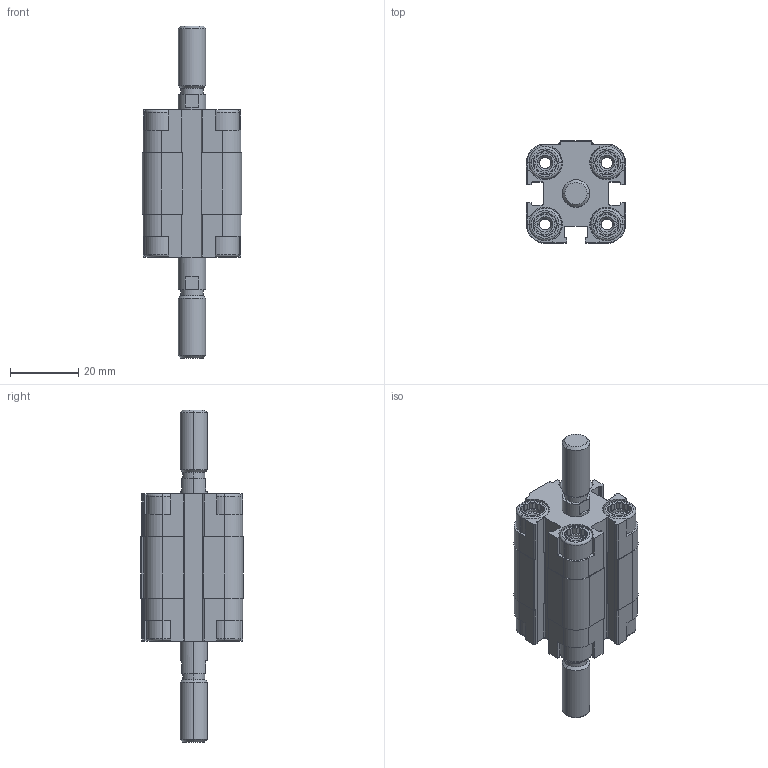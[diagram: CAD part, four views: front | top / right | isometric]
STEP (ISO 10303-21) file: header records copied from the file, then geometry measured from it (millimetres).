
FILE_DESCRIPTION (( 'STEP AP203' ), '1' );
FILE_NAME ('CDVU16-5M-P.STEP', '2020-07-21T15:03:28', ( '' ), ( '' ), 'SwSTEP 2.0', 'SolidWorks 2019', '' );
FILE_SCHEMA (( 'CONFIG_CONTROL_DESIGN' ));
Length unit declared in the file: millimetre
Products named in the file (1): CDVU16-5M-P
Bounding box: 29 x 30 x 97 mm (x, y, z)
Volume: 29403.3 mm3; surface area: 16213.5 mm2
Topology: 2 solids, 2 shells, 566 faces, 1504 edges, 978 vertices
Faces by surface type: plane 338, cylinder 164, cone 48, torus 16
Entity records: 17771 total; most frequent: CARTESIAN_POINT 3621, ORIENTED_EDGE 3000, DIRECTION 2850, EDGE_CURVE 1500, VERTEX_POINT 978, AXIS2_PLACEMENT_3D 975, LINE 900, VECTOR 900
